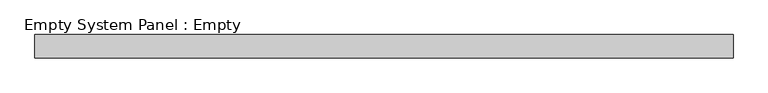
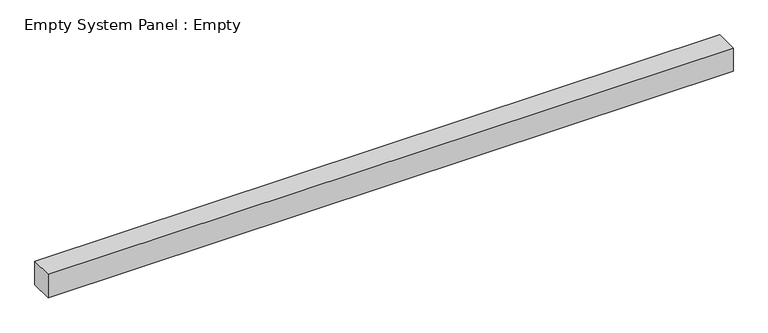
"""IFC4 building model written with IfcOpenShell, lengths in millimetres: plate geometry, Empty System Panel : Empty."""

from ifc_helpers import new_model, si_unit, origin, origin_with_axes, place, context, project, spatial, polyline, outline, extrude, source, transform, mapped, element, save


def empty_system_panel_empty_ee3410a3(model_context):
    return source(origin(), model_context, "Body", "SweptSolid", [
        extrude(outline(polyline([(1500.0, 50.0), (-1500.0, 50.0), (-1500.0, 150.0), (1500.0, 150.0), (1500.0, 50.0)])), origin_with_axes(), (0.0, 0.0, 1.0), 108.1602589),
    ])


if __name__ == "__main__":
    model = new_model("IFC4")
    model_context = context("Model", 3, world=origin())
    ifc_project = project(units=[si_unit("LENGTHUNIT", "METRE", prefix="MILLI")], contexts=[model_context])
    site = spatial("IfcSite", under=ifc_project)
    building = spatial("IfcBuilding", under=site)
    placement = place(None, origin())
    empty_system_panel_empty_shape = empty_system_panel_empty_ee3410a3(model_context)
    element("IfcPlate", 1, ObjectType="Empty System Panel : Empty", at=placement, inside=building, context=model_context, shape_type="MappedRepresentation", body=[
        mapped(empty_system_panel_empty_shape, transform((0.0, 0.0, 0.0), x_axis=(1.0, 0.0, 0.0), y_axis=(0.0, 1.0, 0.0), z_axis=(0.0, 0.0, 1.0))),
    ])
    save(model, "model.ifc")
